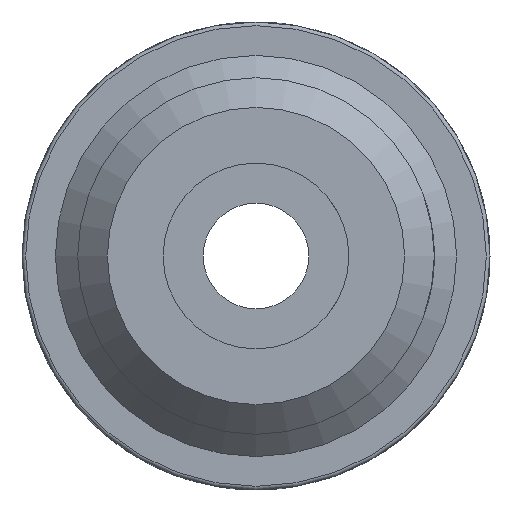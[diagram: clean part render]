
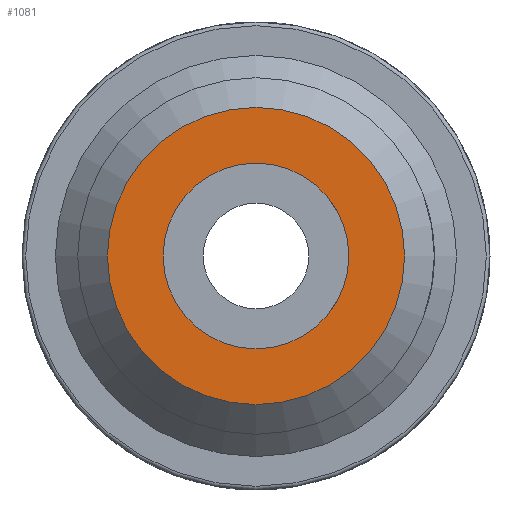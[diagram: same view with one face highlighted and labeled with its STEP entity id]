
A CAD part, front view. The second image highlights one B-rep face of the part: STEP entity #1081.
In plain terms, the highlighted planar face has unit normal (0, -1, 0).
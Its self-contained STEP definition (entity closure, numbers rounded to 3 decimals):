
#278=FACE_BOUND('',#388,.T.);
#319=FACE_OUTER_BOUND('',#387,.T.);
#387=EDGE_LOOP('',(#891));
#388=EDGE_LOOP('',(#892));
#461=CIRCLE('',#1208,20.);
#462=CIRCLE('',#1209,12.5);
#529=VERTEX_POINT('',#1819);
#530=VERTEX_POINT('',#1821);
#657=EDGE_CURVE('',#529,#529,#461,.T.);
#658=EDGE_CURVE('',#530,#530,#462,.T.);
#891=ORIENTED_EDGE('',*,*,#657,.F.);
#892=ORIENTED_EDGE('',*,*,#658,.T.);
#1028=PLANE('',#1207);
#1081=ADVANCED_FACE('',(#319,#278),#1028,.T.);
#1207=AXIS2_PLACEMENT_3D('',#1818,#1418,#1419);
#1208=AXIS2_PLACEMENT_3D('',#1820,#1420,#1421);
#1209=AXIS2_PLACEMENT_3D('',#1822,#1422,#1423);
#1418=DIRECTION('center_axis',(0.,-1.,0.));
#1419=DIRECTION('ref_axis',(0.,0.,-1.));
#1420=DIRECTION('center_axis',(0.,1.,0.));
#1421=DIRECTION('ref_axis',(-1.,0.,0.));
#1422=DIRECTION('center_axis',(0.,1.,0.));
#1423=DIRECTION('ref_axis',(1.,0.,0.));
#1818=CARTESIAN_POINT('Origin',(24.,0.,0.));
#1819=CARTESIAN_POINT('',(20.,0.,0.));
#1820=CARTESIAN_POINT('Origin',(0.,0.,
0.));
#1821=CARTESIAN_POINT('',(-12.5,0.,0.));
#1822=CARTESIAN_POINT('Origin',(0.,0.,
0.));
